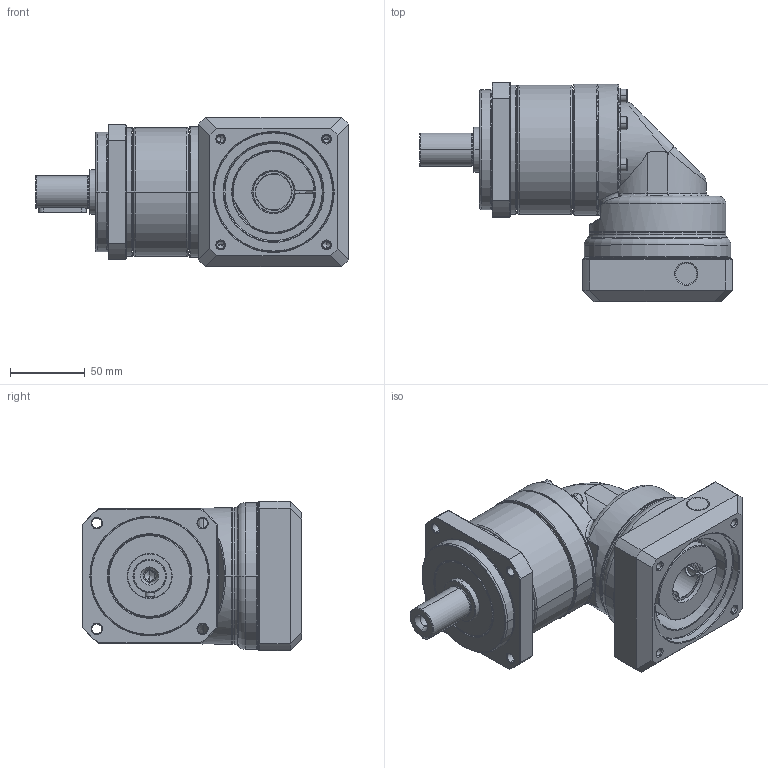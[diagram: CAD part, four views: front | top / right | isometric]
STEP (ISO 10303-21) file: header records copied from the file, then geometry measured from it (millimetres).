
FILE_DESCRIPTION((''),'2;1');
FILE_NAME('PA2R-090_1ST_24-P0411500101_ASM','2016-05-12T',('d01943'),(''),'PRO/ENGINEER BY PARAMETRIC TECHNOLOGY CORPORATION, 2008410','PRO/ENGINEER BY PARAMETRIC TECHNOLOGY CORPORATION, 2008410','');
FILE_SCHEMA(('CONFIG_CONTROL_DESIGN'));
Length unit declared in the file: millimetre
Products named in the file (12): P1327310001; P0250300001; P0350300001; P1349300001; P1017300001; P0713302001; P0503500008; P1350300201; P0411500101; P1702500001; 2111BA05025; PA2R-090_1ST_24-P0411500101_ASM
Assembly tree (16 placements, depth 2):
  PA2R-090_1ST_24-P0411500101_ASM
    P1327310001
    P0250300001
    P0350300001
    P1349300001
    P1017300001
    P0713302001
    P0503500008
    P1350300201
    P0411500101
    P1702500001
    2111BA05025  x6
Bounding box: 209 x 146.5 x 100 mm (x, y, z)
Volume: 856316.3 mm3; surface area: 210746.1 mm2
Topology: 16 solids, 16 shells, 807 faces, 1770 edges, 1022 vertices
Faces by surface type: cylinder 244, cone 232, plane 201, torus 98, bspline 32
Entity records: 23595 total; most frequent: CARTESIAN_POINT 9176, DIRECTION 3195, ORIENTED_EDGE 2788, EDGE_CURVE 1394, AXIS2_PLACEMENT_3D 1343, VERTEX_POINT 822, EDGE_LOOP 728, CIRCLE 705
